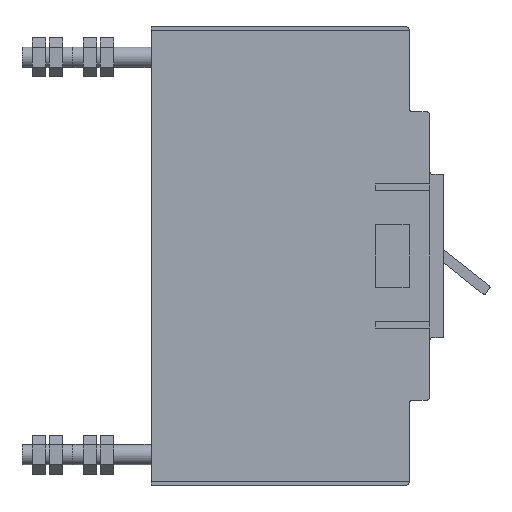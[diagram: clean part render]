
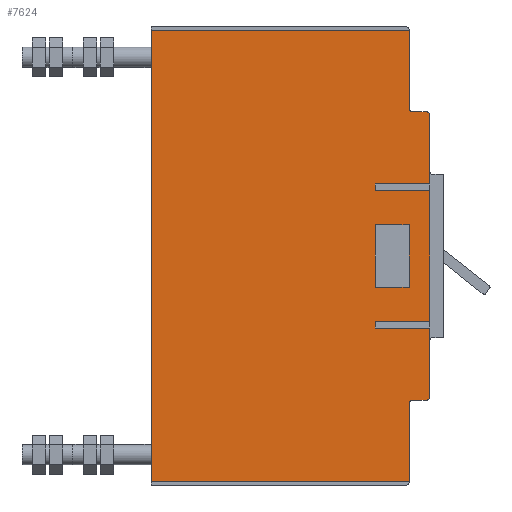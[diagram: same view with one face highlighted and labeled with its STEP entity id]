
A CAD part, left-side view. The second image highlights one B-rep face of the part: STEP entity #7624.
In plain terms, the highlighted planar face has unit normal (-1, 0, 0).
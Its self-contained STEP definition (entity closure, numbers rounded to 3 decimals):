
#306=FACE_BOUND('',#1288,.T.);
#400=CIRCLE('',#8075,1.);
#401=CIRCLE('',#8076,1.);
#402=CIRCLE('',#8077,1.);
#403=CIRCLE('',#8078,1.);
#801=FACE_OUTER_BOUND('',#1287,.T.);
#1287=EDGE_LOOP('',(#6651,#6652,#6653,#6654,#6655,#6656,#6657,#6658,#6659,
#6660,#6661,#6662,#6663,#6664,#6665,#6666,#6667,#6668,#6669,#6670));
#1288=EDGE_LOOP('',(#6671,#6672,#6673,#6674));
#1537=LINE('',#10440,#2363);
#1545=LINE('',#10461,#2371);
#1549=LINE('',#10470,#2375);
#1553=LINE('',#10477,#2379);
#1556=LINE('',#10484,#2382);
#1560=LINE('',#10493,#2386);
#1564=LINE('',#10500,#2390);
#1567=LINE('',#10507,#2393);
#1571=LINE('',#10515,#2397);
#1574=LINE('',#10521,#2400);
#1577=LINE('',#10526,#2403);
#1579=LINE('',#10531,#2405);
#1591=LINE('',#10554,#2417);
#1592=LINE('',#10555,#2418);
#1754=LINE('',#11128,#2580);
#2095=LINE('',#12779,#2921);
#2101=LINE('',#12791,#2927);
#2105=LINE('',#12809,#2931);
#2106=LINE('',#12812,#2932);
#2107=LINE('',#12816,#2933);
#2363=VECTOR('',#8658,23.);
#2371=VECTOR('',#8672,16.);
#2375=VECTOR('',#8678,16.);
#2379=VECTOR('',#8684,2.);
#2382=VECTOR('',#8691,16.);
#2386=VECTOR('',#8697,16.);
#2390=VECTOR('',#8703,2.);
#2393=VECTOR('',#8710,10.);
#2397=VECTOR('',#8716,18.4);
#2400=VECTOR('',#8721,10.);
#2403=VECTOR('',#8726,18.4);
#2405=VECTOR('',#8732,20.3);
#2417=VECTOR('',#8744,20.3);
#2418=VECTOR('',#8745,38.4);
#2580=VECTOR('',#8949,133.);
#2921=VECTOR('',#9726,76.);
#2927=VECTOR('',#9742,76.);
#2931=VECTOR('',#9760,4.);
#2932=VECTOR('',#9763,23.);
#2933=VECTOR('',#9766,4.);
#3157=VERTEX_POINT('',#10437);
#3158=VERTEX_POINT('',#10439);
#3167=VERTEX_POINT('',#10459);
#3168=VERTEX_POINT('',#10460);
#3171=VERTEX_POINT('',#10468);
#3172=VERTEX_POINT('',#10469);
#3175=VERTEX_POINT('',#10482);
#3176=VERTEX_POINT('',#10483);
#3179=VERTEX_POINT('',#10491);
#3180=VERTEX_POINT('',#10492);
#3183=VERTEX_POINT('',#10505);
#3184=VERTEX_POINT('',#10506);
#3187=VERTEX_POINT('',#10514);
#3189=VERTEX_POINT('',#10520);
#3191=VERTEX_POINT('',#10530);
#3202=VERTEX_POINT('',#10552);
#3399=VERTEX_POINT('',#11125);
#3400=VERTEX_POINT('',#11127);
#3639=VERTEX_POINT('',#12777);
#3646=VERTEX_POINT('',#12806);
#3647=VERTEX_POINT('',#12808);
#3648=VERTEX_POINT('',#12811);
#3649=VERTEX_POINT('',#12813);
#3650=VERTEX_POINT('',#12815);
#3937=EDGE_CURVE('',#3157,#3158,#1537,.T.);
#3947=EDGE_CURVE('',#3167,#3168,#1545,.T.);
#3951=EDGE_CURVE('',#3171,#3172,#1549,.T.);
#3955=EDGE_CURVE('',#3168,#3171,#1553,.T.);
#3958=EDGE_CURVE('',#3175,#3176,#1556,.T.);
#3962=EDGE_CURVE('',#3179,#3180,#1560,.T.);
#3966=EDGE_CURVE('',#3176,#3179,#1564,.T.);
#3969=EDGE_CURVE('',#3183,#3184,#1567,.T.);
#3973=EDGE_CURVE('',#3187,#3183,#1571,.T.);
#3976=EDGE_CURVE('',#3189,#3187,#1574,.T.);
#3979=EDGE_CURVE('',#3184,#3189,#1577,.T.);
#3981=EDGE_CURVE('',#3167,#3191,#1579,.T.);
#3993=EDGE_CURVE('',#3202,#3180,#1591,.T.);
#3994=EDGE_CURVE('',#3175,#3172,#1592,.T.);
#4208=EDGE_CURVE('',#3399,#3400,#1754,.T.);
#4653=EDGE_CURVE('',#3399,#3639,#2095,.T.);
#4659=EDGE_CURVE('',#3157,#3400,#2101,.T.);
#4667=EDGE_CURVE('',#3646,#3202,#400,.T.);
#4668=EDGE_CURVE('',#3647,#3646,#2105,.T.);
#4669=EDGE_CURVE('',#3158,#3647,#401,.T.);
#4670=EDGE_CURVE('',#3648,#3639,#2106,.T.);
#4671=EDGE_CURVE('',#3649,#3648,#402,.T.);
#4672=EDGE_CURVE('',#3650,#3649,#2107,.T.);
#4673=EDGE_CURVE('',#3191,#3650,#403,.T.);
#6651=ORIENTED_EDGE('',*,*,#3951,.T.);
#6652=ORIENTED_EDGE('',*,*,#3994,.F.);
#6653=ORIENTED_EDGE('',*,*,#3958,.T.);
#6654=ORIENTED_EDGE('',*,*,#3966,.T.);
#6655=ORIENTED_EDGE('',*,*,#3962,.T.);
#6656=ORIENTED_EDGE('',*,*,#3993,.F.);
#6657=ORIENTED_EDGE('',*,*,#4667,.F.);
#6658=ORIENTED_EDGE('',*,*,#4668,.F.);
#6659=ORIENTED_EDGE('',*,*,#4669,.F.);
#6660=ORIENTED_EDGE('',*,*,#3937,.F.);
#6661=ORIENTED_EDGE('',*,*,#4659,.T.);
#6662=ORIENTED_EDGE('',*,*,#4208,.F.);
#6663=ORIENTED_EDGE('',*,*,#4653,.T.);
#6664=ORIENTED_EDGE('',*,*,#4670,.F.);
#6665=ORIENTED_EDGE('',*,*,#4671,.F.);
#6666=ORIENTED_EDGE('',*,*,#4672,.F.);
#6667=ORIENTED_EDGE('',*,*,#4673,.F.);
#6668=ORIENTED_EDGE('',*,*,#3981,.F.);
#6669=ORIENTED_EDGE('',*,*,#3947,.T.);
#6670=ORIENTED_EDGE('',*,*,#3955,.T.);
#6671=ORIENTED_EDGE('',*,*,#3969,.T.);
#6672=ORIENTED_EDGE('',*,*,#3979,.T.);
#6673=ORIENTED_EDGE('',*,*,#3976,.T.);
#6674=ORIENTED_EDGE('',*,*,#3973,.T.);
#7081=PLANE('',#8074);
#7624=ADVANCED_FACE('',(#801,#306),#7081,.F.);
#8074=AXIS2_PLACEMENT_3D('',#12805,#9756,#9757);
#8075=AXIS2_PLACEMENT_3D('',#12807,#9758,#9759);
#8076=AXIS2_PLACEMENT_3D('',#12810,#9761,#9762);
#8077=AXIS2_PLACEMENT_3D('',#12814,#9764,#9765);
#8078=AXIS2_PLACEMENT_3D('',#12817,#9767,#9768);
#8658=DIRECTION('',(0.,0.,-1.));
#8672=DIRECTION('',(0.,1.,0.));
#8678=DIRECTION('',(0.,-1.,0.));
#8684=DIRECTION('',(0.,0.,1.));
#8691=DIRECTION('',(0.,1.,0.));
#8697=DIRECTION('',(0.,-1.,0.));
#8703=DIRECTION('',(0.,0.,1.));
#8710=DIRECTION('',(0.,-1.,0.));
#8716=DIRECTION('',(0.,0.,1.));
#8721=DIRECTION('',(0.,1.,0.));
#8726=DIRECTION('',(0.,0.,-1.));
#8732=DIRECTION('',(0.,0.,-1.));
#8744=DIRECTION('',(0.,0.,-1.));
#8745=DIRECTION('',(0.,0.,-1.));
#8949=DIRECTION('',(0.,0.,1.));
#9726=DIRECTION('',(0.,-1.,0.));
#9742=DIRECTION('',(0.,1.,0.));
#9756=DIRECTION('center_axis',(1.,0.,0.));
#9757=DIRECTION('ref_axis',(0.,0.,1.));
#9758=DIRECTION('center_axis',(1.,0.,0.));
#9759=DIRECTION('ref_axis',(0.,-0.707,0.707));
#9760=DIRECTION('',(0.,-1.,0.));
#9761=DIRECTION('center_axis',(-1.,0.,0.));
#9762=DIRECTION('ref_axis',(0.,0.707,-0.707));
#9763=DIRECTION('',(0.,0.,-1.));
#9764=DIRECTION('center_axis',(-1.,0.,0.));
#9765=DIRECTION('ref_axis',(0.,0.707,0.707));
#9766=DIRECTION('',(0.,1.,0.));
#9767=DIRECTION('center_axis',(1.,0.,0.));
#9768=DIRECTION('ref_axis',(0.,-0.707,-0.707));
#10437=CARTESIAN_POINT('',(10.,-72.,-136.));
#10439=CARTESIAN_POINT('',(10.,-72.,-159.));
#10440=CARTESIAN_POINT('',(10.,-72.,-135.));
#10459=CARTESIAN_POINT('',(10.,-78.,-223.7));
#10460=CARTESIAN_POINT('',(10.,-62.,-223.7));
#10461=CARTESIAN_POINT('',(10.,-59.514,-223.7));
#10468=CARTESIAN_POINT('',(10.,-62.,-221.7));
#10469=CARTESIAN_POINT('',(10.,-78.,-221.7));
#10470=CARTESIAN_POINT('',(10.,-51.514,-221.7));
#10477=CARTESIAN_POINT('',(10.,-62.,-213.301));
#10482=CARTESIAN_POINT('',(10.,-78.,-183.3));
#10483=CARTESIAN_POINT('',(10.,-62.,-183.3));
#10484=CARTESIAN_POINT('',(10.,-59.514,-183.3));
#10491=CARTESIAN_POINT('',(10.,-62.,-181.3));
#10492=CARTESIAN_POINT('',(10.,-78.,-181.3));
#10493=CARTESIAN_POINT('',(10.,-51.514,-181.3));
#10500=CARTESIAN_POINT('',(10.,-62.,-193.101));
#10505=CARTESIAN_POINT('',(10.,-62.,-193.3));
#10506=CARTESIAN_POINT('',(10.,-72.,-193.3));
#10507=CARTESIAN_POINT('',(10.,-51.514,-193.3));
#10514=CARTESIAN_POINT('',(10.,-62.,-211.7));
#10515=CARTESIAN_POINT('',(10.,-62.,-207.301));
#10520=CARTESIAN_POINT('',(10.,-72.,-211.7));
#10521=CARTESIAN_POINT('',(10.,-56.514,-211.7));
#10526=CARTESIAN_POINT('',(10.,-72.,-198.101));
#10530=CARTESIAN_POINT('',(10.,-78.,-244.));
#10531=CARTESIAN_POINT('',(10.,-78.,-160.));
#10552=CARTESIAN_POINT('',(10.,-78.,-161.));
#10554=CARTESIAN_POINT('',(10.,-78.,-160.));
#10555=CARTESIAN_POINT('',(10.,-78.,-160.));
#11125=CARTESIAN_POINT('',(10.,4.,-269.));
#11127=CARTESIAN_POINT('',(10.,4.,-136.));
#11128=CARTESIAN_POINT('',(10.,4.,-270.));
#12777=CARTESIAN_POINT('',(10.,-72.,-269.));
#12779=CARTESIAN_POINT('',(10.,-18.514,-269.));
#12791=CARTESIAN_POINT('',(10.,-18.514,-136.));
#12805=CARTESIAN_POINT('Origin',(10.,-41.027,-202.902));
#12806=CARTESIAN_POINT('',(10.,-77.,-160.));
#12807=CARTESIAN_POINT('Origin',(10.,-77.,-161.));
#12808=CARTESIAN_POINT('',(10.,-73.,-160.));
#12809=CARTESIAN_POINT('',(10.,-72.,-160.));
#12810=CARTESIAN_POINT('Origin',(10.,-73.,-159.));
#12811=CARTESIAN_POINT('',(10.,-72.,-246.));
#12812=CARTESIAN_POINT('',(10.,-72.,-245.));
#12813=CARTESIAN_POINT('',(10.,-73.,-245.));
#12814=CARTESIAN_POINT('Origin',(10.,-73.,-246.));
#12815=CARTESIAN_POINT('',(10.,-77.,-245.));
#12816=CARTESIAN_POINT('',(10.,-78.,-245.));
#12817=CARTESIAN_POINT('Origin',(10.,-77.,-244.));
